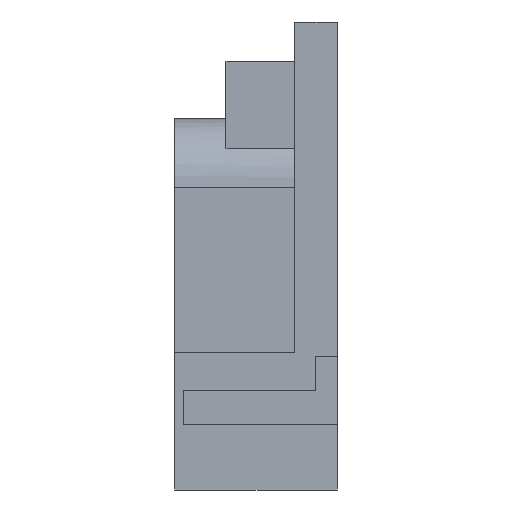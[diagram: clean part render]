
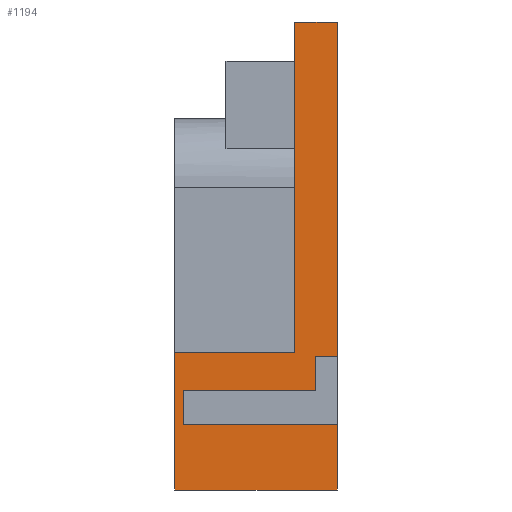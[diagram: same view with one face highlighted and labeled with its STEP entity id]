
A CAD part, left-side view. The second image highlights one B-rep face of the part: STEP entity #1194.
In plain terms, the highlighted planar face has unit normal (-1, 0, 0).
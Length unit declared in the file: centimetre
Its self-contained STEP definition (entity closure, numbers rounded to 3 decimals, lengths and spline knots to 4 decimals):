
#63=PLANE('',#1287);
#130=FACE_OUTER_BOUND('',#192,.T.);
#192=EDGE_LOOP('',(#1045,#1046,#1047,#1048,#1049,#1050,#1051,#1052,#1053,
#1054,#1055,#1056));
#245=LINE('',#1690,#392);
#283=LINE('',#1771,#430);
#329=LINE('',#1876,#476);
#333=LINE('',#1884,#480);
#336=LINE('',#1889,#483);
#337=LINE('',#1891,#484);
#338=LINE('',#1893,#485);
#339=LINE('',#1895,#486);
#340=LINE('',#1897,#487);
#341=LINE('',#1899,#488);
#342=LINE('',#1901,#489);
#343=LINE('',#1902,#490);
#392=VECTOR('',#1376,1.);
#430=VECTOR('',#1442,1.);
#476=VECTOR('',#1540,1.);
#480=VECTOR('',#1546,1.);
#483=VECTOR('',#1551,1.);
#484=VECTOR('',#1552,1.);
#485=VECTOR('',#1553,1.);
#486=VECTOR('',#1554,1.);
#487=VECTOR('',#1555,1.);
#488=VECTOR('',#1556,1.);
#489=VECTOR('',#1557,1.);
#490=VECTOR('',#1558,1.);
#556=VERTEX_POINT('',#1687);
#557=VERTEX_POINT('',#1689);
#586=VERTEX_POINT('',#1769);
#618=VERTEX_POINT('',#1874);
#619=VERTEX_POINT('',#1875);
#622=VERTEX_POINT('',#1883);
#624=VERTEX_POINT('',#1890);
#625=VERTEX_POINT('',#1892);
#626=VERTEX_POINT('',#1894);
#627=VERTEX_POINT('',#1896);
#628=VERTEX_POINT('',#1898);
#629=VERTEX_POINT('',#1900);
#678=EDGE_CURVE('',#556,#557,#245,.T.);
#719=EDGE_CURVE('',#556,#586,#283,.T.);
#770=EDGE_CURVE('',#618,#619,#329,.T.);
#774=EDGE_CURVE('',#619,#622,#333,.T.);
#777=EDGE_CURVE('',#622,#557,#336,.T.);
#778=EDGE_CURVE('',#624,#586,#337,.T.);
#779=EDGE_CURVE('',#625,#624,#338,.T.);
#780=EDGE_CURVE('',#625,#626,#339,.T.);
#781=EDGE_CURVE('',#626,#627,#340,.T.);
#782=EDGE_CURVE('',#627,#628,#341,.T.);
#783=EDGE_CURVE('',#628,#629,#342,.T.);
#784=EDGE_CURVE('',#629,#618,#343,.T.);
#1045=ORIENTED_EDGE('',*,*,#770,.T.);
#1046=ORIENTED_EDGE('',*,*,#774,.T.);
#1047=ORIENTED_EDGE('',*,*,#777,.T.);
#1048=ORIENTED_EDGE('',*,*,#678,.F.);
#1049=ORIENTED_EDGE('',*,*,#719,.T.);
#1050=ORIENTED_EDGE('',*,*,#778,.F.);
#1051=ORIENTED_EDGE('',*,*,#779,.F.);
#1052=ORIENTED_EDGE('',*,*,#780,.T.);
#1053=ORIENTED_EDGE('',*,*,#781,.T.);
#1054=ORIENTED_EDGE('',*,*,#782,.T.);
#1055=ORIENTED_EDGE('',*,*,#783,.T.);
#1056=ORIENTED_EDGE('',*,*,#784,.T.);
#1194=ADVANCED_FACE('',(#130),#63,.T.);
#1287=AXIS2_PLACEMENT_3D('',#1888,#1549,#1550);
#1376=DIRECTION('',(0.,-1.,0.));
#1442=DIRECTION('',(0.,0.,-1.));
#1540=DIRECTION('',(0.,0.,1.));
#1546=DIRECTION('',(0.,-1.,0.));
#1549=DIRECTION('center_axis',(-1.,0.,0.));
#1550=DIRECTION('ref_axis',(0.,-1.,0.));
#1551=DIRECTION('',(0.,0.,1.));
#1552=DIRECTION('',(0.,-1.,0.));
#1553=DIRECTION('',(0.,0.,1.));
#1554=DIRECTION('',(0.,-1.,0.));
#1555=DIRECTION('',(0.,0.,1.));
#1556=DIRECTION('',(0.,1.,0.));
#1557=DIRECTION('',(0.,0.,1.));
#1558=DIRECTION('',(0.,-1.,0.));
#1687=CARTESIAN_POINT('',(-3.3,-4.95,2.73));
#1689=CARTESIAN_POINT('',(-3.3,-5.2,2.73));
#1690=CARTESIAN_POINT('',(-3.3,-4.25,2.73));
#1769=CARTESIAN_POINT('',(-3.3,-4.95,0.8));
#1771=CARTESIAN_POINT('',(-3.3,-4.95,0.125));
#1874=CARTESIAN_POINT('',(-3.3,-5.07,0.58));
#1875=CARTESIAN_POINT('',(-3.3,-5.07,0.78));
#1876=CARTESIAN_POINT('',(-3.3,-5.07,0.29));
#1883=CARTESIAN_POINT('',(-3.3,-5.2,0.78));
#1884=CARTESIAN_POINT('',(-3.3,-4.6925,0.78));
#1888=CARTESIAN_POINT('Origin',(-3.3,-4.25,0.));
#1889=CARTESIAN_POINT('',(-3.3,-5.2,0.));
#1890=CARTESIAN_POINT('',(-3.3,-4.25,0.8));
#1891=CARTESIAN_POINT('',(-3.3,-4.25,0.8));
#1892=CARTESIAN_POINT('',(-3.3,-4.25,0.));
#1893=CARTESIAN_POINT('',(-3.3,-4.25,0.248));
#1894=CARTESIAN_POINT('',(-3.3,-5.2,0.));
#1895=CARTESIAN_POINT('',(-3.3,-2.125,0.));
#1896=CARTESIAN_POINT('',(-3.3,-5.2,0.38));
#1897=CARTESIAN_POINT('',(-3.3,-5.2,0.));
#1898=CARTESIAN_POINT('',(-3.3,-4.3,0.38));
#1899=CARTESIAN_POINT('',(-3.3,-4.5,0.38));
#1900=CARTESIAN_POINT('',(-3.3,-4.3,0.58));
#1901=CARTESIAN_POINT('',(-3.3,-4.3,0.19));
#1902=CARTESIAN_POINT('',(-3.3,-4.5,0.58));
